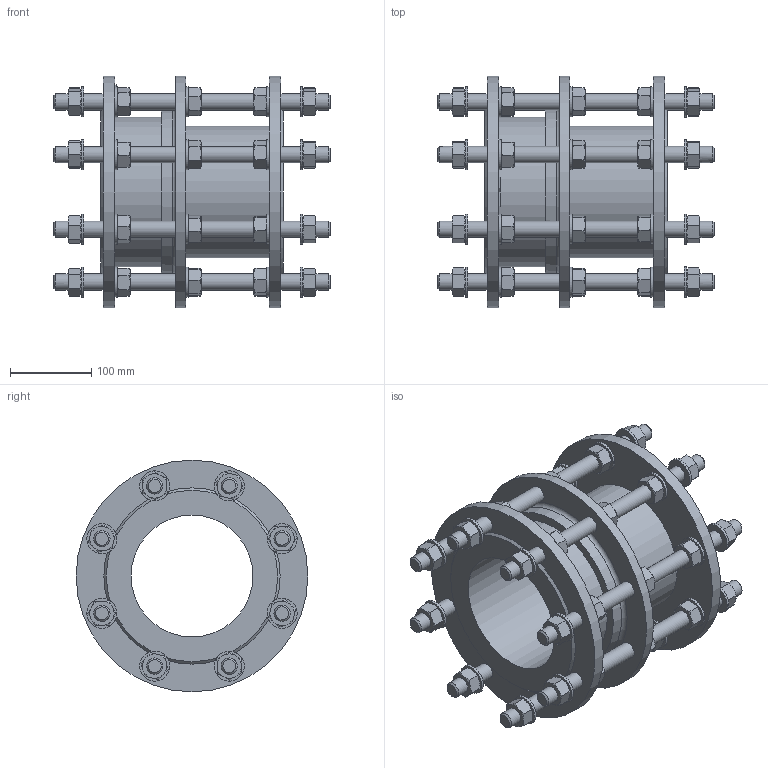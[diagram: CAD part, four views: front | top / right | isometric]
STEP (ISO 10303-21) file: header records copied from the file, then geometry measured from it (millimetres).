
FILE_DESCRIPTION (( 'STEP AP203' ), '1' );
FILE_NAME ('O_265_910_DN150_1XXXXX00_L=225_REV01.step', '2024-10-11T08:46:10', ( '' ), ( '' ), 'SwSTEP 2.0', 'SolidWorks 2022', '' );
FILE_SCHEMA (( 'CONFIG_CONTROL_DESIGN' ));
Length unit declared in the file: millimetre
Products named in the file (1): O_265_910_DN150_1XXXXX00_L=225_REV01
Bounding box: 340 x 285 x 285 mm (x, y, z)
Volume: 4239804.3 mm3; surface area: 691694.2 mm2
Topology: 1 solids, 1 shells, 996 faces, 2169 edges, 1298 vertices
Faces by surface type: cone 499, plane 400, cylinder 96, torus 1
Full cylindrical faces by diameter (mm): 20 x48, 37 x40, 150 x1, 162 x1, 184 x1, 285 x3
Entity records: 29954 total; most frequent: CARTESIAN_POINT 10324, ORIENTED_EDGE 4004, DIRECTION 3731, EDGE_CURVE 2002, AXIS2_PLACEMENT_3D 1692, EDGE_LOOP 1267, VERTEX_POINT 1245, FACE_OUTER_BOUND 1091
